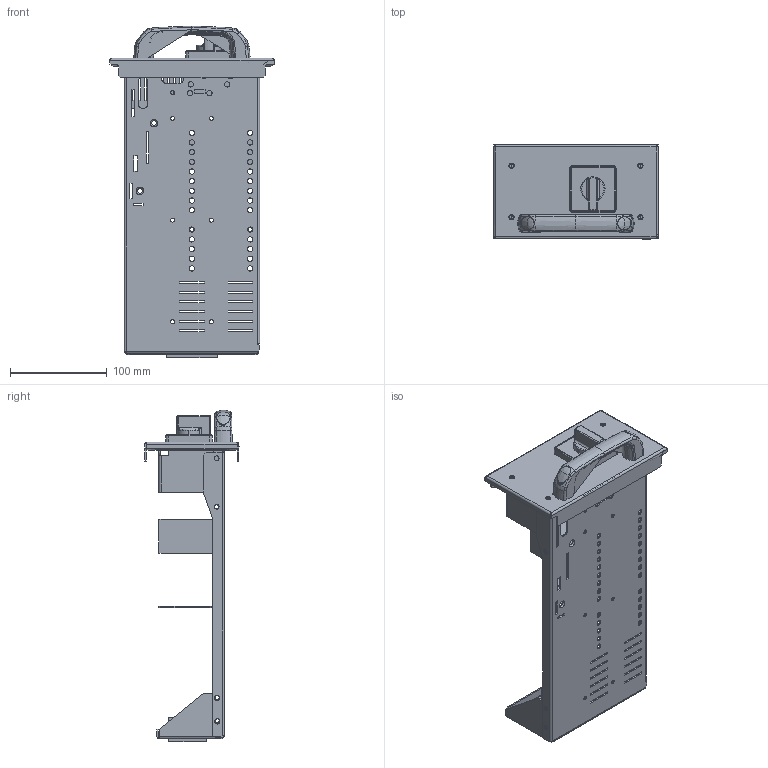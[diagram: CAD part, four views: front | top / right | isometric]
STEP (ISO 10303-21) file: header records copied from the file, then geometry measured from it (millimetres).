
FILE_DESCRIPTION(('CAx-IF Rec.Pracs.---Model Styling and Organization---1.2---2011-12-15','CAx-IF Rec.Pracs.---Geometric and Assembly Validation Properties---4.1---2014-06-16','CAx-IF Rec.Pracs.---PMI Polyline Presentation---2.0---2013-05-24'),'2;1');
FILE_NAME('2М3.stp','2021-05-05T11:45:52+03:00',(''),(''),'STEP Interface 4.4 by CT CoreTechnologie','3D_Evolution4.4 by CT CoreTechnologie','');
FILE_SCHEMA(('AUTOMOTIVE_DESIGN { 1 0 10303 214 1 1 1 1 }'));
Length unit declared in the file: millimetre
Products named in the file (21): 2Ì3; AZ0101 Rotary handle DKC 6x6; R5M2W...M...BR..._R5M2W2M3BR16; RB.1353.00.00.0_-00; êîíòàêòû; áëîêèðîâêà; áëîêèðîâêà1; RB.1215.00.00.0 ÑÁ_-01; RB.1215.02.00.0 ÑÁ_-01; RB.1215.02.01.0_-00_2; RB.1215.00.01.0_-00; RB.1215.01.00.0 ÑÁ_-00; RB.1215.01.01.0_-00; PF 7x14 RAMmcc 2.0_1å3_; AC00C061_AC00C061; Ì6õ12-A5100231_straight; 4.444.001; PR.DT477.100.02; PR.DT477.100.01; M5x16 GOST 17475-80 (DIN 965)_straight; RB.1200.00.00.0_-00
Assembly tree (22 placements, depth 4):
  2Ì3
    AZ0101 Rotary handle DKC 6x6
    R5M2W...M...BR..._R5M2W2M3BR16
      RB.1353.00.00.0_-00
    êîíòàêòû
    áëîêèðîâêà
    áëîêèðîâêà1
    RB.1215.00.00.0 ÑÁ_-01
      RB.1215.02.00.0 ÑÁ_-01
        RB.1215.02.01.0_-00_2
      RB.1215.00.01.0_-00
      RB.1215.01.00.0 ÑÁ_-00
        RB.1215.01.01.0_-00
        PF 7x14 RAMmcc 2.0_1å3_
        AC00C061_AC00C061
        Ì6õ12-A5100231_straight
    4.444.001
      PR.DT477.100.02  x2
      PR.DT477.100.01
    M5x16 GOST 17475-80 (DIN 965)_straight  x2
    RB.1200.00.00.0_-00
Bounding box: 169.62 x 97.2 x 342.14 mm (x, y, z)
Surface area: 302902.4 mm2 (no closed solid volume)
Topology: 0 solids, 21 shells, 1725 faces, 4454 edges, 2746 vertices
Faces by surface type: bspline 688, plane 636, cylinder 401
Entity records: 83610 total; most frequent: CARTESIAN_POINT 30868, ORIENTED_EDGE 8370, DIRECTION 7740, EDGE_CURVE 4186, AXIS2_PLACEMENT_3D 2804, VERTEX_POINT 2605, VECTOR 2132, LINE 2132
